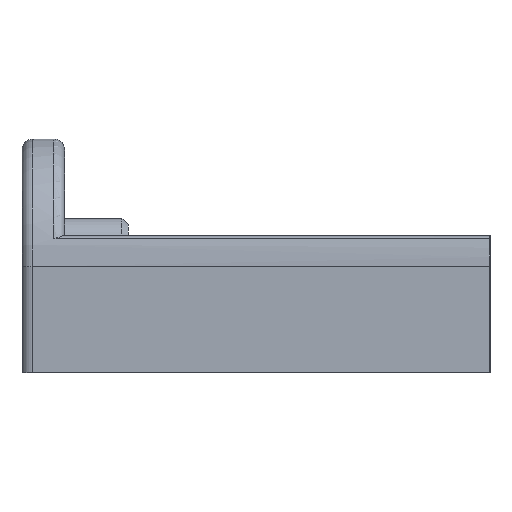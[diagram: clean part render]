
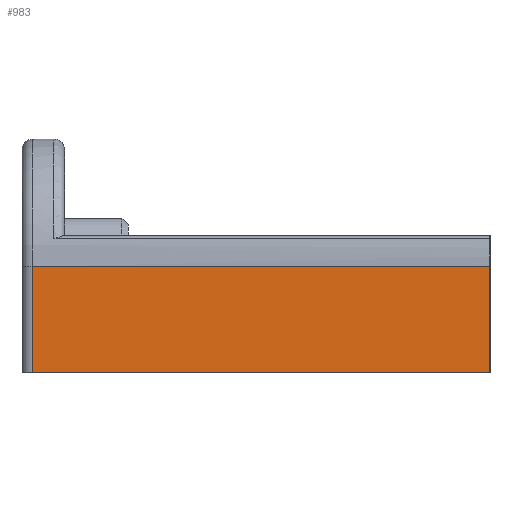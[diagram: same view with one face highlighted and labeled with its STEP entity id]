
A CAD part, left-side view. The second image highlights one B-rep face of the part: STEP entity #983.
In plain terms, the highlighted planar face has unit normal (-1, 0, 0).
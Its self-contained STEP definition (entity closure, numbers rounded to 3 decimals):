
#725 = VERTEX_POINT('',#726);
#726 = CARTESIAN_POINT('',(-50.,-44.,0.));
#732 = EDGE_CURVE('',#733,#725,#735,.T.);
#733 = VERTEX_POINT('',#734);
#734 = CARTESIAN_POINT('',(-50.,-44.,10.));
#735 = LINE('',#736,#737);
#736 = CARTESIAN_POINT('',(-50.,-44.,10.));
#737 = VECTOR('',#738,1.);
#738 = DIRECTION('',(0.,0.,-1.));
#834 = EDGE_CURVE('',#835,#733,#837,.T.);
#835 = VERTEX_POINT('',#836);
#836 = CARTESIAN_POINT('',(-50.,-1.,10.));
#837 = LINE('',#838,#839);
#838 = CARTESIAN_POINT('',(-50.,0.,10.));
#839 = VECTOR('',#840,1.);
#840 = DIRECTION('',(0.,-1.,0.));
#945 = EDGE_CURVE('',#946,#725,#948,.T.);
#946 = VERTEX_POINT('',#947);
#947 = CARTESIAN_POINT('',(-50.,-1.,0.));
#948 = LINE('',#949,#950);
#949 = CARTESIAN_POINT('',(-50.,0.,0.));
#950 = VECTOR('',#951,1.);
#951 = DIRECTION('',(0.,-1.,0.));
#983 = ADVANCED_FACE('',(#984),#995,.F.);
#984 = FACE_BOUND('',#985,.F.);
#985 = EDGE_LOOP('',(#986,#987,#988,#989));
#986 = ORIENTED_EDGE('',*,*,#834,.T.);
#987 = ORIENTED_EDGE('',*,*,#732,.T.);
#988 = ORIENTED_EDGE('',*,*,#945,.F.);
#989 = ORIENTED_EDGE('',*,*,#990,.F.);
#990 = EDGE_CURVE('',#835,#946,#991,.T.);
#991 = LINE('',#992,#993);
#992 = CARTESIAN_POINT('',(-50.,-1.,10.));
#993 = VECTOR('',#994,1.);
#994 = DIRECTION('',(0.,0.,-1.));
#995 = PLANE('',#996);
#996 = AXIS2_PLACEMENT_3D('',#997,#998,#999);
#997 = CARTESIAN_POINT('',(-50.,0.,10.));
#998 = DIRECTION('',(1.,0.,0.));
#999 = DIRECTION('',(0.,0.,-1.));
